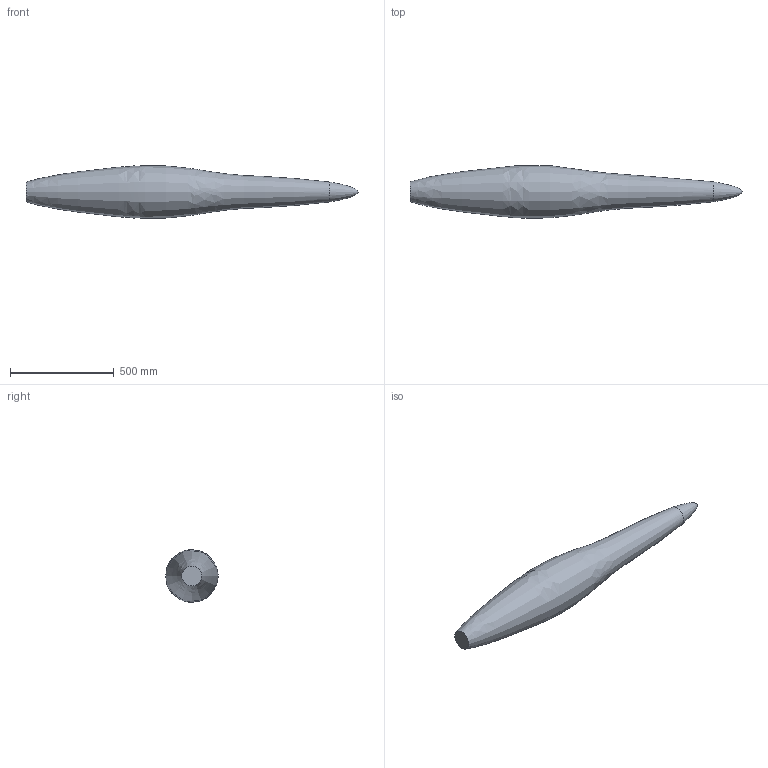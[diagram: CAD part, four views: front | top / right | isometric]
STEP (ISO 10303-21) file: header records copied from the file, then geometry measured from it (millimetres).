
FILE_DESCRIPTION((''),'2;1');
FILE_NAME('C:\Dokumente und Einstellungen\Kramp\Eigene Dateien\Microsonic Nacharbeit 2\restliche Änderungen\STP\Schallfeld Betriebstastw 1300mm Rohr.stp','2005-08-11T08:22:27',('Kramp'),(''),'Autodesk Inventor 7','Autodesk Inventor 7','');
FILE_SCHEMA(('AUTOMOTIVE_DESIGN { 1 0 10303 214 1 1 1 1 }'));
Length unit declared in the file: millimetre
Products named in the file (1): Schallfeld Betriebstastw 1300mm Rohr
Bounding box: 1600 x 253.3 x 255.47 mm (x, y, z)
Volume: 42370715.8 mm3; surface area: 890321.7 mm2
Topology: 1 solids, 1 shells, 3 faces, 5 edges, 3 vertices
Faces by surface type: bspline 2, plane 1
Entity records: 365 total; most frequent: CARTESIAN_POINT 297, DIRECTION 8, ORIENTED_EDGE 8, AXIS2_PLACEMENT_3D 4, EDGE_CURVE 4, VERTEX_POINT 3, EDGE_LOOP 3, FACE_OUTER_BOUND 3
